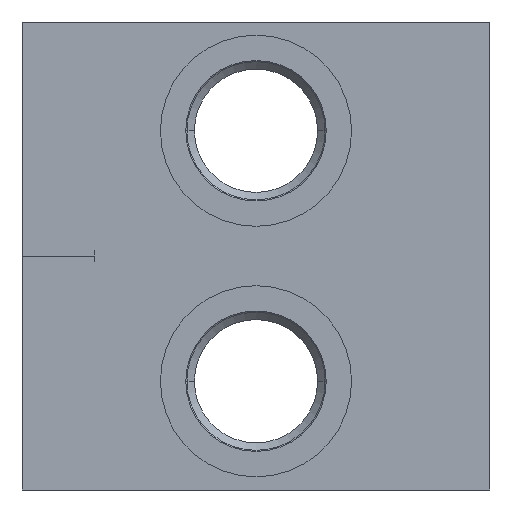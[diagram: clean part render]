
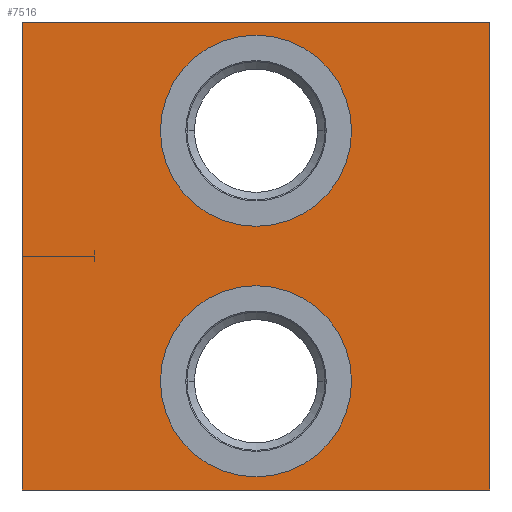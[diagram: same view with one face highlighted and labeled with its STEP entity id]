
A CAD part, left-side view. The second image highlights one B-rep face of the part: STEP entity #7516.
In plain terms, the highlighted planar face has unit normal (-1, 0, 0).
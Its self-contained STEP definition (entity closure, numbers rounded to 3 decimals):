
#30=DIRECTION('',(0.,-1.,0.));
#31=VECTOR('',#30,71.);
#32=CARTESIAN_POINT('',(0.,71.,0.));
#33=LINE('',#32,#31);
#243=DIRECTION('',(0.,0.,-1.));
#244=VECTOR('',#243,71.);
#245=CARTESIAN_POINT('',(0.,0.,0.));
#246=LINE('',#245,#244);
#1694=DIRECTION('',(0.,0.,-1.));
#1695=VECTOR('',#1694,71.);
#1696=CARTESIAN_POINT('',(0.,71.,0.));
#1697=LINE('',#1696,#1695);
#1701=CARTESIAN_POINT('',(0.,35.5,-54.5));
#1702=DIRECTION('',(1.,0.,0.));
#1703=DIRECTION('',(0.,-1.,0.));
#1704=AXIS2_PLACEMENT_3D('',#1701,#1702,#1703);
#1709=CARTESIAN_POINT('',(0.,35.5,-54.5));
#1710=DIRECTION('',(1.,0.,0.));
#1711=DIRECTION('',(0.,1.,0.));
#1712=AXIS2_PLACEMENT_3D('',#1709,#1710,#1711);
#1717=CARTESIAN_POINT('',(0.,35.5,-16.5));
#1718=DIRECTION('',(1.,0.,0.));
#1719=DIRECTION('',(0.,-1.,0.));
#1720=AXIS2_PLACEMENT_3D('',#1717,#1718,#1719);
#1725=CARTESIAN_POINT('',(0.,35.5,-16.5));
#1726=DIRECTION('',(1.,0.,0.));
#1727=DIRECTION('',(0.,1.,0.));
#1728=AXIS2_PLACEMENT_3D('',#1725,#1726,#1727);
#1754=DIRECTION('',(0.,-1.,0.));
#1755=VECTOR('',#1754,71.);
#1756=CARTESIAN_POINT('',(0.,71.,-71.));
#1757=LINE('',#1756,#1755);
#6297=CARTESIAN_POINT('',(0.,0.,0.));
#6299=VERTEX_POINT('',#6297);
#6303=CARTESIAN_POINT('',(0.,71.,0.));
#6304=VERTEX_POINT('',#6303);
#6305=CARTESIAN_POINT('',(0.,0.,-71.));
#6307=VERTEX_POINT('',#6305);
#6311=CARTESIAN_POINT('',(0.,71.,-71.));
#6312=VERTEX_POINT('',#6311);
#6341=CARTESIAN_POINT('',(0.,21.,-54.5));
#6342=CARTESIAN_POINT('',(0.,50.,-54.5));
#6343=VERTEX_POINT('',#6341);
#6344=VERTEX_POINT('',#6342);
#6357=CARTESIAN_POINT('',(0.,21.,-16.5));
#6358=CARTESIAN_POINT('',(0.,50.,-16.5));
#6359=VERTEX_POINT('',#6357);
#6360=VERTEX_POINT('',#6358);
#7492=CARTESIAN_POINT('',(0.,71.,0.));
#7493=DIRECTION('',(-1.,0.,0.));
#7494=DIRECTION('',(0.,-1.,0.));
#7495=AXIS2_PLACEMENT_3D('',#7492,#7493,#7494);
#7496=PLANE('',#7495);
#7497=ORIENTED_EDGE('',*,*,#7040,.T.);
#7498=ORIENTED_EDGE('',*,*,#7138,.T.);
#7500=ORIENTED_EDGE('',*,*,#7499,.F.);
#7501=ORIENTED_EDGE('',*,*,#7225,.F.);
#7502=EDGE_LOOP('',(#7497,#7498,#7500,#7501));
#7503=FACE_OUTER_BOUND('',#7502,.F.);
#7505=ORIENTED_EDGE('',*,*,#7504,.F.);
#7507=ORIENTED_EDGE('',*,*,#7506,.F.);
#7508=EDGE_LOOP('',(#7505,#7507));
#7509=FACE_BOUND('',#7508,.F.);
#7511=ORIENTED_EDGE('',*,*,#7510,.F.);
#7513=ORIENTED_EDGE('',*,*,#7512,.F.);
#7514=EDGE_LOOP('',(#7511,#7513));
#7515=FACE_BOUND('',#7514,.F.);
#1705=CIRCLE('',#1704,14.5);
#1713=CIRCLE('',#1712,14.5);
#1721=CIRCLE('',#1720,14.5);
#1729=CIRCLE('',#1728,14.5);
#7040=EDGE_CURVE('',#6304,#6299,#33,.T.);
#7138=EDGE_CURVE('',#6299,#6307,#246,.T.);
#7225=EDGE_CURVE('',#6304,#6312,#1697,.T.);
#7499=EDGE_CURVE('',#6312,#6307,#1757,.T.);
#7504=EDGE_CURVE('',#6343,#6344,#1705,.T.);
#7506=EDGE_CURVE('',#6344,#6343,#1713,.T.);
#7510=EDGE_CURVE('',#6359,#6360,#1721,.T.);
#7512=EDGE_CURVE('',#6360,#6359,#1729,.T.);
#7516=ADVANCED_FACE('',(#7503,#7509,#7515),#7496,.T.);
